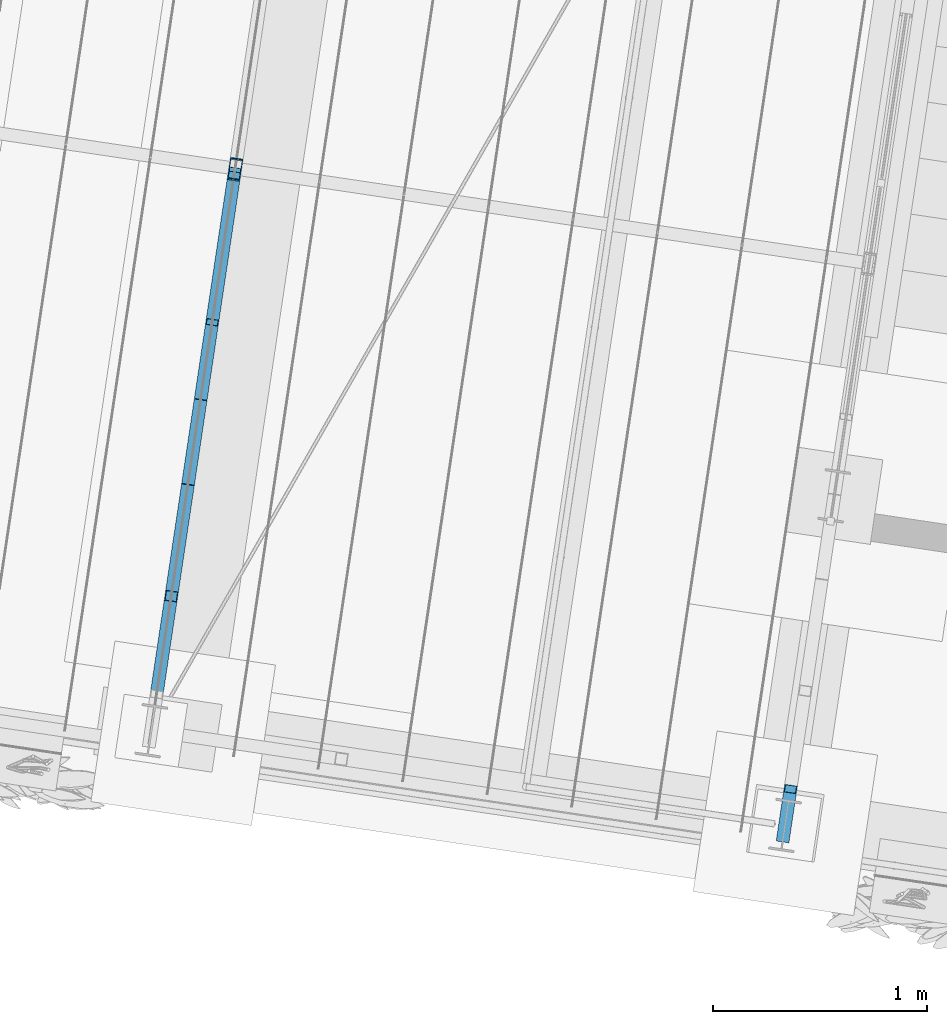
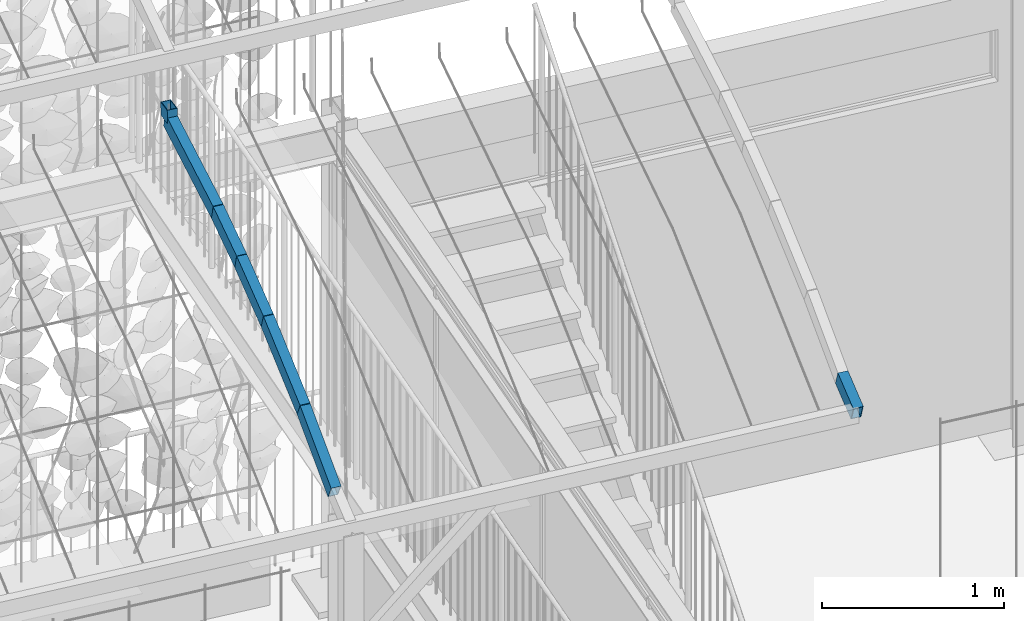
# One storey, part 108 of 142: 7 members, 1 element without a shape of its own.
"""IFC4 building model written with IfcOpenShell, lengths in metres."""

from ifc_helpers import new_model, si_unit, direction, frame, origin_with_axes, place, context, subcontext, project, spatial, hollow_rectangle, extrude, material, material_profile, profile_set, profile_usage, type_object, element, aggregate, save


model = new_model("IFC4")

# Units and contexts
model_context = context("Model", 3, precision=1e-05, world=origin_with_axes(), true_north=direction((0.0, 1.0)))
body_context = subcontext(model_context, "Body", "Model", "MODEL_VIEW")
ifc_project = project(units=[si_unit("AREAUNIT", "SQUARE_METRE"), si_unit("VOLUMEUNIT", "CUBIC_METRE"), si_unit("LENGTHUNIT", "METRE")], contexts=[model_context])

# Site, building, storey
site_placement = place(None, origin_with_axes())
site = spatial("IfcSite", under=ifc_project, at=site_placement, Name="Lares · Rua das Mercês · artigo 4771")
building_placement = place(site_placement, frame((15.0, 9.7, 14.65), z_axis=(0.0, 0.0, 1.0), x_axis=(0.989015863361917, -0.147809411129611, 0.0)))
building = spatial("IfcBuilding", under=site, at=building_placement, Name="Casa Sobreposta")
storey_placement = place(building_placement, origin_with_axes())
storey = spatial("IfcBuildingStorey", under=building, at=storey_placement, Name="00 · Habitação e estacionamento", Elevation=14.65)

# Assembly, members
assembly_placement = place(storey_placement, origin_with_axes())
assembly = element("IfcElementAssembly", 1, at=assembly_placement, inside=storey, Name="Pérgola · prolongamento da estufa 6 m", ObjectType="PERGOLA_GREENHOUSE_EXTENSION", PredefinedType="USERDEFINED")
ifc_material = material(Name="Aço pintado / Stahl lackiert", Category="steel")
ifc_material_profile = material_profile(ifc_material, hollow_rectangle(XDim=0.06, YDim=0.1, WallThickness=0.004))
ifc_profile_set = profile_set([ifc_material_profile], Name="RHS100x60x4")
ifc_profile_usage_1 = profile_usage(ifc_profile_set)
member_type = type_object("IfcMemberType", Name="RHS100x60x4 / steel", PredefinedType="NOTDEFINED", material=ifc_profile_set)
member_1_placement = place(assembly_placement, frame((-3.0, -1.26765509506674, 6.32392631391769), z_axis=(0.0, 0.878851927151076, 0.477094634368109), x_axis=(1.0, 0.0, 0.0)))
member_1 = element("IfcMember", 2, at=member_1_placement, type_object=member_type, material=ifc_profile_usage_1, Name="Pérgola · arco contínuo com a estufa", context=body_context, shape_type="SweptSolid", body=[
    extrude(hollow_rectangle(XDim=0.06, YDim=0.1, WallThickness=0.004), origin_with_axes(), (0.0, 0.0, 1.0), 0.52863528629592),
])
ifc_profile_usage_2 = profile_usage(ifc_profile_set)
member_2_placement = place(assembly_placement, frame((-3.0, -0.803062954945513, 6.57613537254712), z_axis=(0.0, 0.915885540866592, 0.401439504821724), x_axis=(1.0, 0.0, 0.0)))
member_2 = element("IfcMember", 3, at=member_2_placement, type_object=member_type, material=ifc_profile_usage_2, Name="Pérgola · arco contínuo com a estufa", context=body_context, shape_type="SweptSolid", body=[
    extrude(hollow_rectangle(XDim=0.06, YDim=0.1, WallThickness=0.004), origin_with_axes(), (0.0, 0.0, 1.0), 0.596771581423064),
])
ifc_profile_usage_3 = profile_usage(ifc_profile_set)
member_3_placement = place(assembly_placement, frame((-3.0, -0.256488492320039, 6.81570306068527), z_axis=(0.0, 0.942820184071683, 0.333301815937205), x_axis=(1.0, 0.0, 0.0)))
member_3 = element("IfcMember", 4, at=member_3_placement, type_object=member_type, material=ifc_profile_usage_3, Name="Pérgola · arco contínuo com a estufa", context=body_context, shape_type="SweptSolid", body=[
    extrude(hollow_rectangle(XDim=0.06, YDim=0.1, WallThickness=0.004), origin_with_axes(), (0.0, 0.0, 1.0), 0.423025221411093),
])
ifc_profile_usage_4 = profile_usage(ifc_profile_set)
member_4_placement = place(assembly_placement, frame((-3.0, 0.142348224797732, 6.95669813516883), z_axis=(0.0, 0.959692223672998, 0.281053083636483), x_axis=(1.0, 0.0, 0.0)))
member_4 = element("IfcMember", 5, at=member_4_placement, type_object=member_type, material=ifc_profile_usage_4, Name="Pérgola · arco contínuo com a estufa", context=body_context, shape_type="SweptSolid", body=[
    extrude(hollow_rectangle(XDim=0.06, YDim=0.1, WallThickness=0.004), origin_with_axes(), (0.0, 0.0, 1.0), 0.365557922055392),
])
ifc_profile_usage_5 = profile_usage(ifc_profile_set)
member_5_placement = place(assembly_placement, frame((-3.0, 0.493171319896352, 7.05943931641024), z_axis=(0.0, 0.977995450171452, 0.208626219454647), x_axis=(1.0, 0.0, 0.0)))
member_5 = element("IfcMember", 6, at=member_5_placement, type_object=member_type, material=ifc_profile_usage_5, Name="Pérgola · arco contínuo com a estufa", context=body_context, shape_type="SweptSolid", body=[
    extrude(hollow_rectangle(XDim=0.06, YDim=0.1, WallThickness=0.004), origin_with_axes(), (0.0, 0.0, 1.0), 0.737465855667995),
])
ifc_profile_usage_6 = profile_usage(ifc_profile_set)
member_6_placement = place(assembly_placement, frame((-3.0, 1.21440957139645, 7.21329402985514), z_axis=(0.0, 0.0686229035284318, 0.997642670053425), x_axis=(1.0, 0.0, 0.0)))
member_6 = element("IfcMember", 7, at=member_6_placement, type_object=member_type, material=ifc_profile_usage_6, Name="Pérgola · arco contínuo com a estufa", context=body_context, shape_type="SweptSolid", body=[
    extrude(hollow_rectangle(XDim=0.06, YDim=0.1, WallThickness=0.004), origin_with_axes(), (0.0, 0.0, 1.0), 0.0875893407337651),
])
ifc_profile_usage_7 = profile_usage(ifc_profile_set)
member_7_placement = place(assembly_placement, frame((0.0, -1.5, 6.23430000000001), z_axis=(0.0, 0.932991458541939, 0.35989851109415), x_axis=(1.0, 0.0, 0.0)))
member_7 = element("IfcMember", 8, at=member_7_placement, type_object=member_type, material=ifc_profile_usage_7, Name="Pérgola · arco contínuo com a estufa", context=body_context, shape_type="SweptSolid", body=[
    extrude(hollow_rectangle(XDim=0.06, YDim=0.1, WallThickness=0.004), origin_with_axes(), (0.0, 0.0, 1.0), 0.249032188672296),
])
aggregate(assembly, [member_1, member_2, member_3, member_4, member_5, member_6, member_7])

save(model, "model.ifc")
